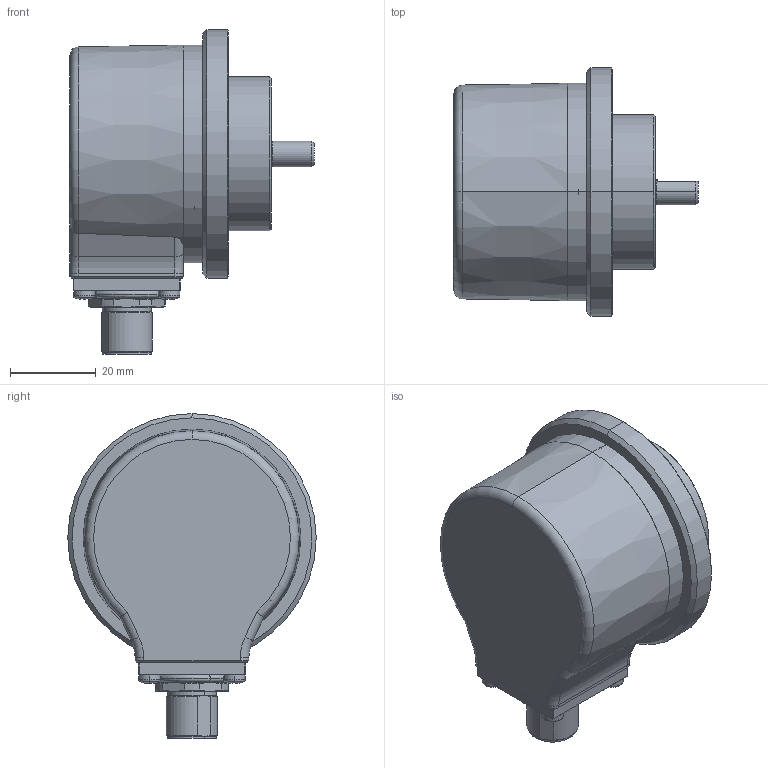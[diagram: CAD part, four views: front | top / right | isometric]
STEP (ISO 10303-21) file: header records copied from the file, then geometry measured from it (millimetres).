
FILE_DESCRIPTION (( 'STEP AP203' ), '1' );
FILE_NAME ('8.5000.717R.XXXX.STEP', '2017-04-05T06:57:35', ( '' ), ( '' ), 'SwSTEP 2.0', 'SolidWorks 2017', '' );
FILE_SCHEMA (( 'CONFIG_CONTROL_DESIGN' ));
Length unit declared in the file: millimetre
Products named in the file (1): 8.5000.717R.XXXX
Bounding box: 57 x 58 x 75.8 mm (x, y, z)
Surface area: 32322 mm2 (no closed solid volume)
Topology: 0 solids, 15 shells, 569 faces, 1285 edges, 774 vertices
Faces by surface type: plane 200, cylinder 170, cone 114, torus 47, bspline 26, sphere 12
Entity records: 16914 total; most frequent: CARTESIAN_POINT 4042, DIRECTION 2864, ORIENTED_EDGE 2522, EDGE_CURVE 1269, AXIS2_PLACEMENT_3D 1166, VERTEX_POINT 774, EDGE_LOOP 637, CIRCLE 622
